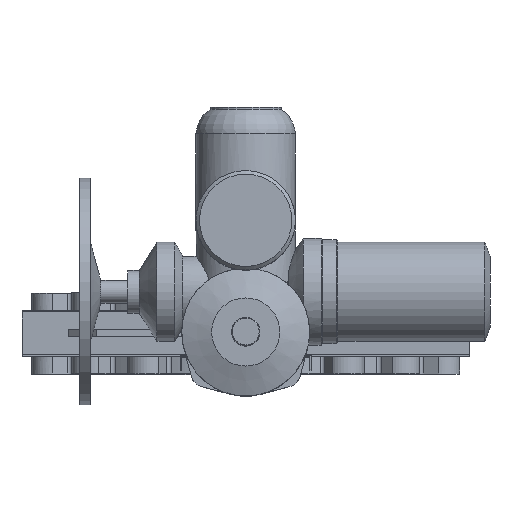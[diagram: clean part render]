
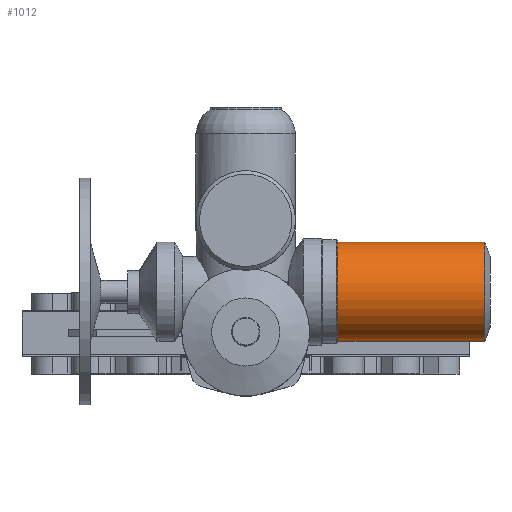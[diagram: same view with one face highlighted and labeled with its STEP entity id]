
A CAD part, top view. The second image highlights one B-rep face of the part: STEP entity #1012.
In plain terms, the highlighted cylindrical face has radius 70 mm (diameter 140 mm), a full revolution.
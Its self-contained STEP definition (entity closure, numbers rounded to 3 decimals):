
#1012=ADVANCED_FACE('',(#2049,#2051),#2053,.T.);
#2049=FACE_OUTER_BOUND('',#2050,.T.);
#2050=EDGE_LOOP('',(#5101));
#2051=FACE_OUTER_BOUND('',#2052,.T.);
#2052=EDGE_LOOP('',(#5102));
#2053=CYLINDRICAL_SURFACE('',#2054,70.);
#2054=AXIS2_PLACEMENT_3D('',#2055,#2056,#2057);
#2055=CARTESIAN_POINT('',(336.721,57.,1240.));
#2056=DIRECTION('',(-1.,0.,0.));
#2057=DIRECTION('',(0.,0.,1.));
#5101=ORIENTED_EDGE('',*,*,#7449,.T.);
#5102=ORIENTED_EDGE('',*,*,#7446,.F.);
#7446=EDGE_CURVE('',#9294,#9294,#9295,.T.);
#7449=EDGE_CURVE('',#9300,#9300,#9301,.T.);
#9294=VERTEX_POINT('',#11944);
#9295=CIRCLE('',#11945,70.);
#9300=VERTEX_POINT('',#11959);
#9301=CIRCLE('',#11960,70.);
#11944=CARTESIAN_POINT('',(129.807,57.,1310.));
#11945=AXIS2_PLACEMENT_3D('',#11946,#11947,#11948);
#11946=CARTESIAN_POINT('',(129.807,57.,1240.));
#11947=DIRECTION('',(-1.,0.,0.));
#11948=DIRECTION('',(0.,0.,1.));
#11959=CARTESIAN_POINT('',(336.721,57.,1310.));
#11960=AXIS2_PLACEMENT_3D('',#11961,#11962,#11963);
#11961=CARTESIAN_POINT('',(336.721,57.,1240.));
#11962=DIRECTION('',(-1.,0.,0.));
#11963=DIRECTION('',(0.,0.,1.));
